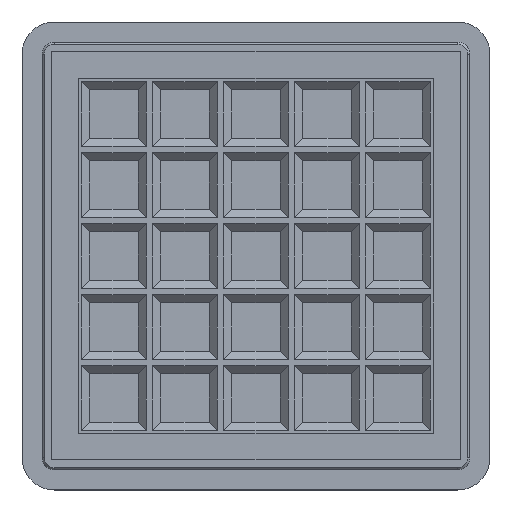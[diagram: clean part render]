
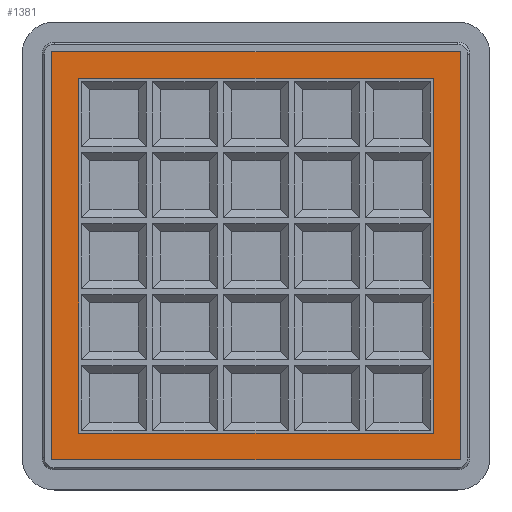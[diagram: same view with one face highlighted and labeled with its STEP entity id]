
A CAD part, top view. The second image highlights one B-rep face of the part: STEP entity #1381.
In plain terms, the highlighted free-form (B-spline) face has degree [1, 1] with [2, 2] control points.
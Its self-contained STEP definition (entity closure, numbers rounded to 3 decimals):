
#1298 = VERTEX_POINT('',#1299);
#1299 = CARTESIAN_POINT('',(25.3,-25.3,12.));
#1304 = EDGE_CURVE('',#1305,#1298,#1307,.T.);
#1305 = VERTEX_POINT('',#1306);
#1306 = CARTESIAN_POINT('',(-25.3,-25.3,12.));
#1307 = B_SPLINE_CURVE_WITH_KNOTS('',1,(#1308,#1309),.UNSPECIFIED.,.F.,
  .F.,(2,2),(0.,50.6),.PIECEWISE_BEZIER_KNOTS.);
#1308 = CARTESIAN_POINT('',(-25.3,-25.3,12.));
#1309 = CARTESIAN_POINT('',(25.3,-25.3,12.));
#1326 = EDGE_CURVE('',#1298,#1327,#1329,.T.);
#1327 = VERTEX_POINT('',#1328);
#1328 = CARTESIAN_POINT('',(25.3,25.3,12.));
#1329 = B_SPLINE_CURVE_WITH_KNOTS('',1,(#1330,#1331),.UNSPECIFIED.,.F.,
  .F.,(2,2),(0.,50.6),.PIECEWISE_BEZIER_KNOTS.);
#1330 = CARTESIAN_POINT('',(25.3,-25.3,12.));
#1331 = CARTESIAN_POINT('',(25.3,25.3,12.));
#1348 = EDGE_CURVE('',#1349,#1327,#1351,.T.);
#1349 = VERTEX_POINT('',#1350);
#1350 = CARTESIAN_POINT('',(-25.3,25.3,12.));
#1351 = B_SPLINE_CURVE_WITH_KNOTS('',1,(#1352,#1353),.UNSPECIFIED.,.F.,
  .F.,(2,2),(0.,50.6),.PIECEWISE_BEZIER_KNOTS.);
#1352 = CARTESIAN_POINT('',(-25.3,25.3,12.));
#1353 = CARTESIAN_POINT('',(25.3,25.3,12.));
#1370 = EDGE_CURVE('',#1305,#1349,#1371,.T.);
#1371 = B_SPLINE_CURVE_WITH_KNOTS('',1,(#1372,#1373),.UNSPECIFIED.,.F.,
  .F.,(2,2),(0.,50.6),.PIECEWISE_BEZIER_KNOTS.);
#1372 = CARTESIAN_POINT('',(-25.3,-25.3,12.));
#1373 = CARTESIAN_POINT('',(-25.3,25.3,12.));
#1381 = ADVANCED_FACE('',(#1382,#1388),#1418,.T.);
#1382 = FACE_BOUND('',#1383,.T.);
#1383 = EDGE_LOOP('',(#1384,#1385,#1386,#1387));
#1384 = ORIENTED_EDGE('',*,*,#1370,.F.);
#1385 = ORIENTED_EDGE('',*,*,#1304,.T.);
#1386 = ORIENTED_EDGE('',*,*,#1326,.T.);
#1387 = ORIENTED_EDGE('',*,*,#1348,.F.);
#1388 = FACE_BOUND('',#1389,.T.);
#1389 = EDGE_LOOP('',(#1390,#1399,#1406,#1413));
#1390 = ORIENTED_EDGE('',*,*,#1391,.F.);
#1391 = EDGE_CURVE('',#1392,#1394,#1396,.T.);
#1392 = VERTEX_POINT('',#1393);
#1393 = CARTESIAN_POINT('',(-22.,-22.,12.));
#1394 = VERTEX_POINT('',#1395);
#1395 = CARTESIAN_POINT('',(22.,-22.,12.));
#1396 = B_SPLINE_CURVE_WITH_KNOTS('',1,(#1397,#1398),.UNSPECIFIED.,.F.,
  .F.,(2,2),(1.65,45.65),.PIECEWISE_BEZIER_KNOTS.);
#1397 = CARTESIAN_POINT('',(-22.,-22.,12.));
#1398 = CARTESIAN_POINT('',(22.,-22.,12.));
#1399 = ORIENTED_EDGE('',*,*,#1400,.F.);
#1400 = EDGE_CURVE('',#1401,#1392,#1403,.T.);
#1401 = VERTEX_POINT('',#1402);
#1402 = CARTESIAN_POINT('',(-22.,22.,12.));
#1403 = B_SPLINE_CURVE_WITH_KNOTS('',1,(#1404,#1405),.UNSPECIFIED.,.F.,
  .F.,(2,2),(-45.65,-1.65),.PIECEWISE_BEZIER_KNOTS.);
#1404 = CARTESIAN_POINT('',(-22.,22.,12.));
#1405 = CARTESIAN_POINT('',(-22.,-22.,12.));
#1406 = ORIENTED_EDGE('',*,*,#1407,.T.);
#1407 = EDGE_CURVE('',#1401,#1408,#1410,.T.);
#1408 = VERTEX_POINT('',#1409);
#1409 = CARTESIAN_POINT('',(22.,22.,12.));
#1410 = B_SPLINE_CURVE_WITH_KNOTS('',1,(#1411,#1412),.UNSPECIFIED.,.F.,
  .F.,(2,2),(1.65,45.65),.PIECEWISE_BEZIER_KNOTS.);
#1411 = CARTESIAN_POINT('',(-22.,22.,12.));
#1412 = CARTESIAN_POINT('',(22.,22.,12.));
#1413 = ORIENTED_EDGE('',*,*,#1414,.T.);
#1414 = EDGE_CURVE('',#1408,#1394,#1415,.T.);
#1415 = B_SPLINE_CURVE_WITH_KNOTS('',1,(#1416,#1417),.UNSPECIFIED.,.F.,
  .F.,(2,2),(-45.65,-1.65),.PIECEWISE_BEZIER_KNOTS.);
#1416 = CARTESIAN_POINT('',(22.,22.,12.));
#1417 = CARTESIAN_POINT('',(22.,-22.,12.));
#1418 = B_SPLINE_SURFACE_WITH_KNOTS('',1,1,(
    (#1419,#1420)
    ,(#1421,#1422
    )),.UNSPECIFIED.,.F.,.F.,.F.,(2,2),(2,2),(0.,50.6),(0.,50.6),
  .PIECEWISE_BEZIER_KNOTS.);
#1419 = CARTESIAN_POINT('',(-25.3,-25.3,12.));
#1420 = CARTESIAN_POINT('',(-25.3,25.3,12.));
#1421 = CARTESIAN_POINT('',(25.3,-25.3,12.));
#1422 = CARTESIAN_POINT('',(25.3,25.3,12.));
